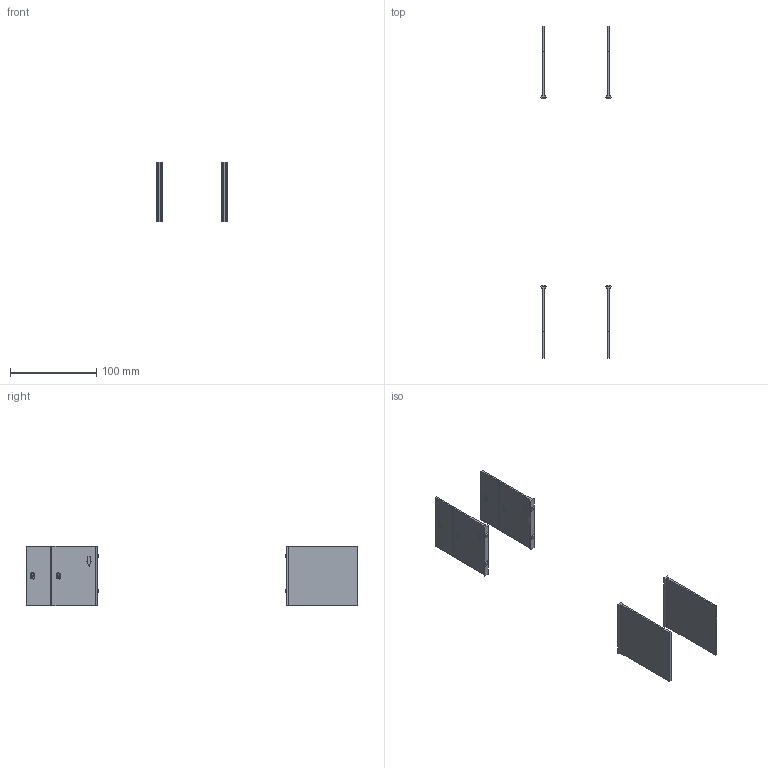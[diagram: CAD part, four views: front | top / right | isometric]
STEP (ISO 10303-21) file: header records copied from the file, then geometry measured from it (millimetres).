
FILE_DESCRIPTION (( 'STEP AP214' ), '1' );
FILE_NAME ('ÂÀ57-39 Êîìïëåêò ìåæïîëþñíûõ ïåðåãîðîäîê.STEP', '2023-07-14T06:32:01', ( '' ), ( '' ), 'SwSTEP 2.0', 'SolidWorks 2018', '' );
FILE_SCHEMA (( 'AUTOMOTIVE_DESIGN' ));
Length unit declared in the file: millimetre
Products named in the file (1): ÂÀ57-39 Êîìïëåêò ìåæïîëþñíûõ ïåðåãîðîäîê
Bounding box: 81.1 x 384 x 69 mm (x, y, z)
Volume: 48609.7 mm3; surface area: 50629.3 mm2
Topology: 4 solids, 4 shells, 364 faces, 936 edges, 624 vertices
Faces by surface type: bspline 180, plane 176, cylinder 8
Entity records: 25309 total; most frequent: CARTESIAN_POINT 13593, ORIENTED_EDGE 1872, DIRECTION 962, EDGE_CURVE 936, VERTEX_POINT 624, VECTOR 560, LINE 560, EDGE_LOOP 408
